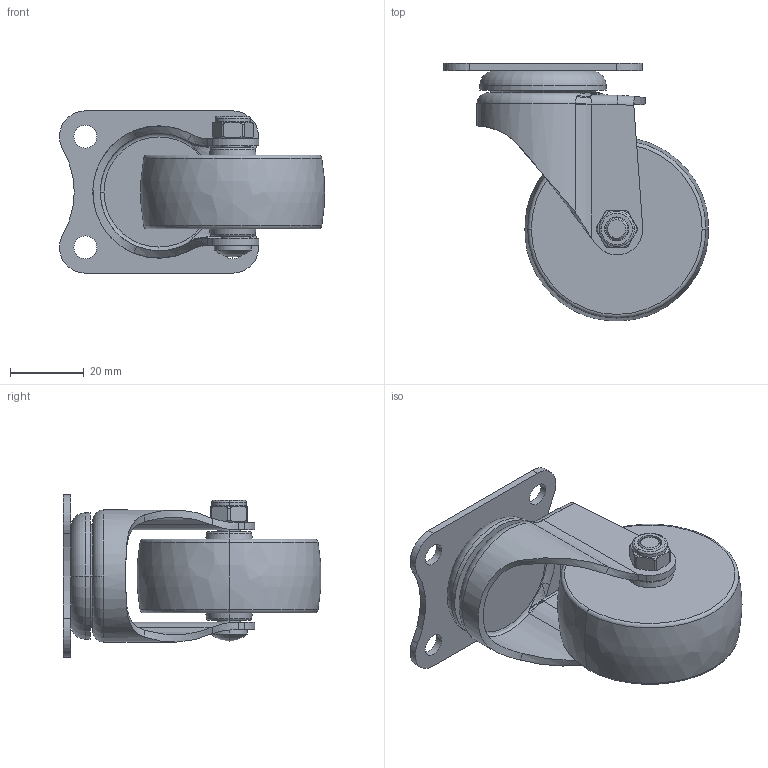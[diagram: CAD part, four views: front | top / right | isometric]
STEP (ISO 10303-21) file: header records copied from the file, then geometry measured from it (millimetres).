
FILE_DESCRIPTION((''),'2;1');
FILE_NAME('26112-262-83_ASM','2019-12-13T',('L'),(''),'PRO/ENGINEER BY PARAMETRIC TECHNOLOGY CORPORATION, 2010280','PRO/ENGINEER BY PARAMETRIC TECHNOLOGY CORPORATION, 2010280','');
FILE_SCHEMA(('CONFIG_CONTROL_DESIGN'));
Length unit declared in the file: millimetre
Products named in the file (5): 26112; 262-83; 2610-020; 2610-031; 26112-262-83_ASM
Assembly tree (4 placements, depth 2):
  26112-262-83_ASM
    26112
    262-83
    2610-020
    2610-031
Bounding box: 71.91 x 69.9 x 44 mm (x, y, z)
Volume: 55051.4 mm3; surface area: 21074.1 mm2
Topology: 4 solids, 4 shells, 174 faces, 412 edges, 249 vertices
Faces by surface type: cylinder 57, plane 38, torus 30, bspline 29, cone 18, sphere 2
Entity records: 6753 total; most frequent: CARTESIAN_POINT 2723, DIRECTION 842, ORIENTED_EDGE 812, EDGE_CURVE 406, AXIS2_PLACEMENT_3D 362, VERTEX_POINT 249, CIRCLE 208, EDGE_LOOP 199
